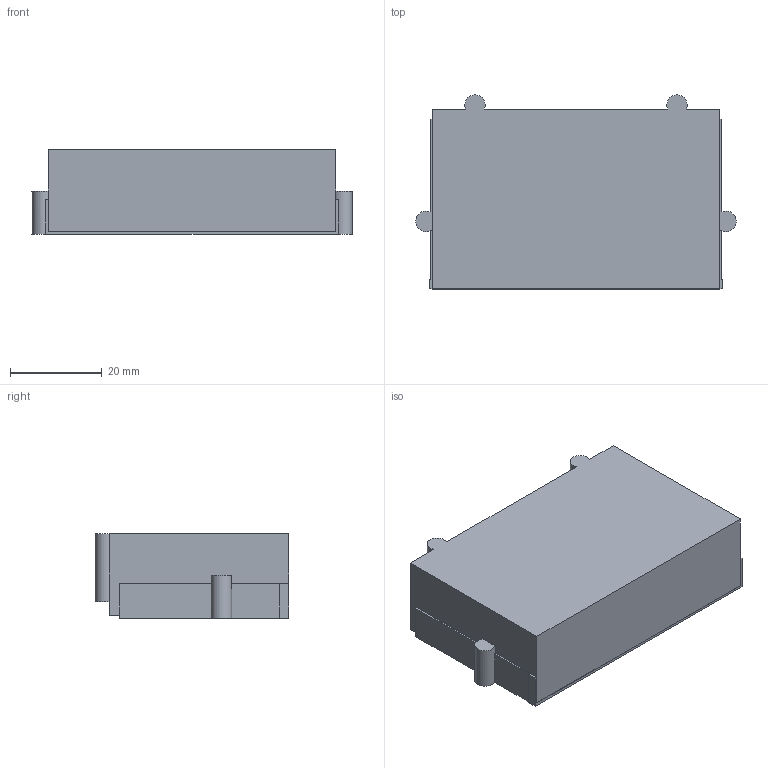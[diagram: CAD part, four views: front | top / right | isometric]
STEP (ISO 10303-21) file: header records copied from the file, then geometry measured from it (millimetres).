
FILE_DESCRIPTION(('Open CASCADE Model'),'2;1');
FILE_NAME('Open CASCADE Shape Model','2026-09-15T13:33:53',('Author'),( 'Open CASCADE'),'Open CASCADE STEP processor 7.7','Open CASCADE 7.7' ,'Unknown');
FILE_SCHEMA(('AUTOMOTIVE_DESIGN { 1 0 10303 214 1 1 1 1 }'));
Length unit declared in the file: millimetre
Products named in the file (1): Open CASCADE STEP translator 7.7 1
Bounding box: 69.68 x 42.21 x 18.4 mm (x, y, z)
Volume: 44366.5 mm3; surface area: 9086.3 mm2
Topology: 1 solids, 1 shells, 34 faces, 96 edges, 64 vertices
Faces by surface type: plane 30, cylinder 4
Entity records: 2294 total; most frequent: CARTESIAN_POINT 461, DIRECTION 306, LINE 202, VECTOR 202, ORIENTED_EDGE 192, PCURVE 192, DEFINITIONAL_REPRESENTATION 192, EDGE_CURVE 96
